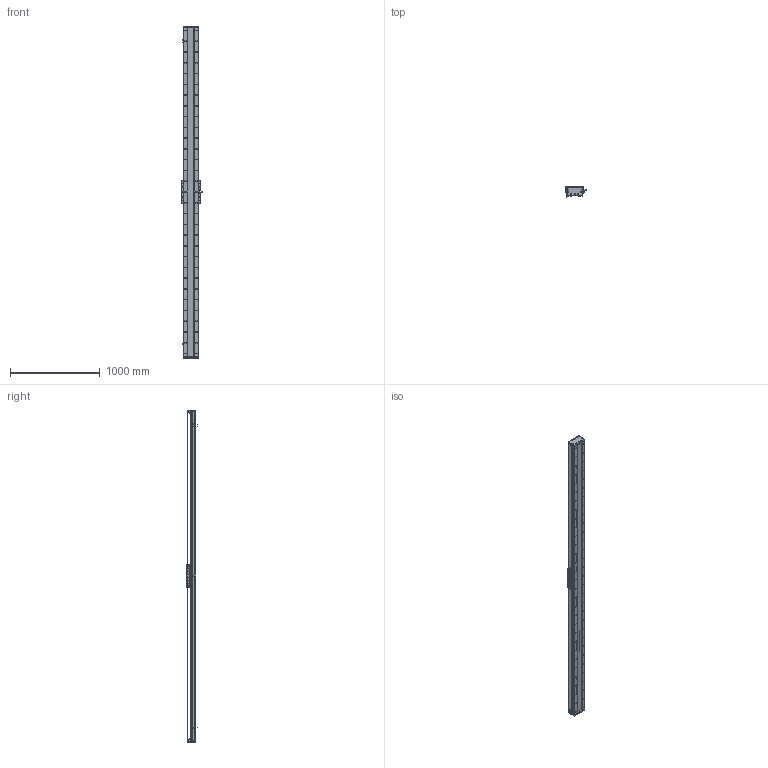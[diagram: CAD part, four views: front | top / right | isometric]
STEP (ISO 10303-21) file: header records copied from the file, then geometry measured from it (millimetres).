
FILE_DESCRIPTION (( 'STEP AP203' ), '1' );
FILE_NAME ('DA-C165-C3-T3360-C010-0.2 直线电机.STEP', '2023-06-13T09:02:49', ( '微软用户' ), ( '微软中国' ), 'SwSTEP 2.0', 'SolidWorks 2019', '' );
FILE_SCHEMA (( 'CONFIG_CONTROL_DESIGN' ));
Length unit declared in the file: millimetre
Products named in the file (18): 复件 DA95-HXJ-00 缓冲橡胶^DA-C165-C3-T-C010-0.2-N 直线电机; 葩璃 CKM03-W075-C1C2-TP-3.0^DA-C165-C3-T-C010-0.2-N 眻盄萇儂; 复件 DA165-GYP-00 光电感应片^DA-C165-C3-T-C010-0.2-N 直线电机; IU-CU165-L 菁釱絳寢; 复件 DA165-GDLK-00 钢带拉块^复件 CU165钢带组件_DA-C165-C3-T-C010-0.2-N 直线电机; 复件 CU165 底座^IU-CU165-L 底座导轨_L3660; 珨极趙賑雄怢啣C3-wf; DA-C165-C3-T3360-C010-0.2 眻盄萇儂; 葩璃 PM-T45^DA-C165-C3-T-C010-0.2-N 眻盄萇儂; 复件 六角薄螺母 M3^DA-C165-C3-T-C010-0.2-N 直线电机_GB_FASTENER_NUT_STNAB M3-C; 复件 DA165-GD-1860-002-00 钢带盖板^复件 CU165钢带组件_DA-C165-C3-T-C010-0.2-N 直线电机; 复件 DMA-010-0.2 读数头^DA-C165-C3-T-C010-0.2-N 直线电机; 复件 DA165-GD-DG-H-00 端盖^复件 CU165钢带组件_DA-C165-C3-T-C010-0.2-N 直线电机; 复件 DA165-GDYK-00 钢带压块^复件 CU165钢带组件_DA-C165-C3-T-C010-0.2-N 直线电机; 复件 CU165钢带组件^DA-C165-C3-T-C010-0.2-N 直线电机; 复件 XD-U-02L 磁栅尺^DA-C165-C3-T-C010-0.2-N 直线电机_T; 葩璃 DA95-GT-T-00^IU-CU165-L 菁釱絳寢_T; 葩璃 CKM01-W075-TRL^DA-C165-C3-T-C010-0.2-N 眻盄萇儂
Assembly tree (35 placements, depth 3):
  DA-C165-C3-T3360-C010-0.2 眻盄萇儂
    IU-CU165-L 菁釱絳寢
      复件 CU165 底座^IU-CU165-L 底座导轨_L3660
      葩璃 DA95-GT-T-00^IU-CU165-L 菁釱絳寢_T  x4
    复件 XD-U-02L 磁栅尺^DA-C165-C3-T-C010-0.2-N 直线电机_T
    葩璃 PM-T45^DA-C165-C3-T-C010-0.2-N 眻盄萇儂  x3
    葩璃 CKM01-W075-TRL^DA-C165-C3-T-C010-0.2-N 眻盄萇儂
    复件 CU165钢带组件^DA-C165-C3-T-C010-0.2-N 直线电机
      复件 DA165-GD-DG-H-00 端盖^复件 CU165钢带组件_DA-C165-C3-T-C010-0.2-N 直线电机  x2
      复件 DA165-GDYK-00 钢带压块^复件 CU165钢带组件_DA-C165-C3-T-C010-0.2-N 直线电机  x2
      复件 DA165-GD-1860-002-00 钢带盖板^复件 CU165钢带组件_DA-C165-C3-T-C010-0.2-N 直线电机
      复件 DA165-GDLK-00 钢带拉块^复件 CU165钢带组件_DA-C165-C3-T-C010-0.2-N 直线电机  x2
    复件 DA95-HXJ-00 缓冲橡胶^DA-C165-C3-T-C010-0.2-N 直线电机  x4
    复件 DA165-GYP-00 光电感应片^DA-C165-C3-T-C010-0.2-N 直线电机
    复件 DMA-010-0.2 读数头^DA-C165-C3-T-C010-0.2-N 直线电机
    葩璃 CKM03-W075-C1C2-TP-3.0^DA-C165-C3-T-C010-0.2-N 眻盄萇儂
    复件 六角薄螺母 M3^DA-C165-C3-T-C010-0.2-N 直线电机_GB_FASTENER_NUT_STNAB M3-C  x8
    珨极趙賑雄怢啣C3-wf
Bounding box: 233 x 111.45 x 3700 mm (x, y, z)
Volume: 20254230.3 mm3; surface area: 6134240.7 mm2
Topology: 72 solids, 122 shells, 4902 faces, 14527 edges, 9264 vertices
Faces by surface type: cylinder 3024, plane 1252, cone 576, torus 46, sphere 4
Entity records: 171155 total; most frequent: CARTESIAN_POINT 48791, ORIENTED_EDGE 25806, DIRECTION 24557, EDGE_CURVE 12903, AXIS2_PLACEMENT_3D 9484, VERTEX_POINT 8452, EDGE_LOOP 5901, LINE 5589
